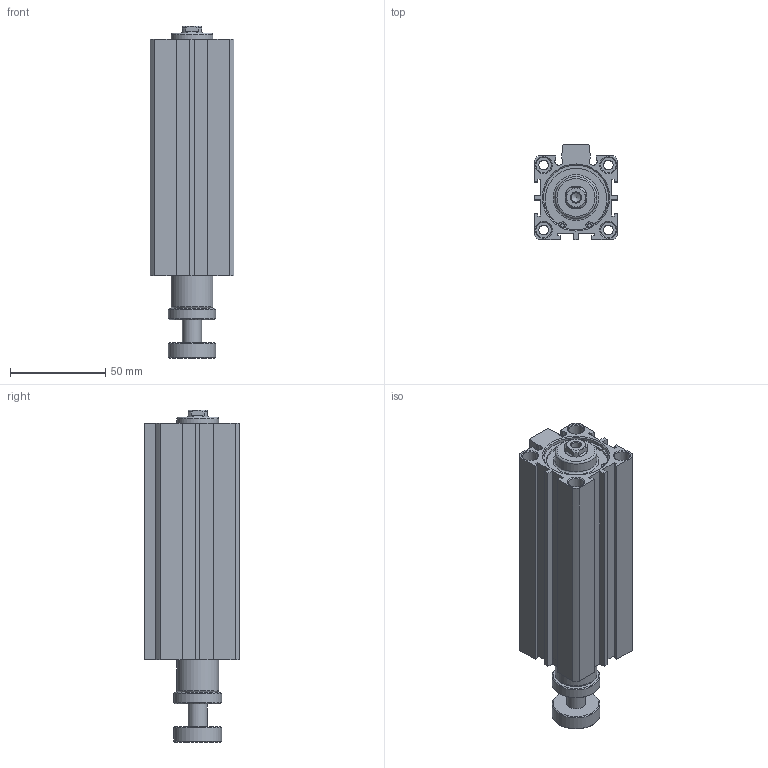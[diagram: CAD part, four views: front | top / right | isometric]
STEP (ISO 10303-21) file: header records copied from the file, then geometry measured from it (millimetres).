
FILE_DESCRIPTION((''),'2;1');
FILE_NAME('I:\3D電子目錄\氣缸\JDAR\JDAR-S\JDAR32-S\JDAR32x90-S.stp','2007-05-05T09:29:43',('662F206'),(''),'Autodesk Inventor 11','Autodesk Inventor 11','');
FILE_SCHEMA(('AUTOMOTIVE_DESIGN { 1 0 10303 214 1 1 1 1 }'));
Length unit declared in the file: millimetre
Products named in the file (3): JDAR32-S; JDAR32; R 形環 35
Assembly tree (3 placements, depth 2):
  JDAR32-S
    JDAR32
    R 形環 35  x2
Bounding box: 44 x 50 x 174.1 mm (x, y, z)
Volume: 225549.7 mm3; surface area: 51966.6 mm2
Topology: 3 solids, 3 shells, 170 faces, 399 edges, 259 vertices
Faces by surface type: plane 88, cylinder 51, cone 21, bspline 8, torus 2
Full cylindrical faces by diameter (mm): 1.9 x4, 2.2 x2, 5.1 x4, 8 x8, 10 x1, 22 x2, 25 x2, 34 x4, 36 x2
Entity records: 4435 total; most frequent: CARTESIAN_POINT 886, DIRECTION 740, ORIENTED_EDGE 622, EDGE_CURVE 311, AXIS2_PLACEMENT_3D 281, EDGE_LOOP 246, VERTEX_POINT 233, VECTOR 178
